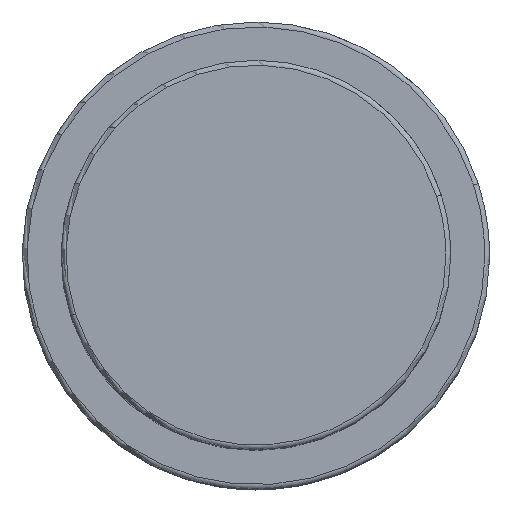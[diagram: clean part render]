
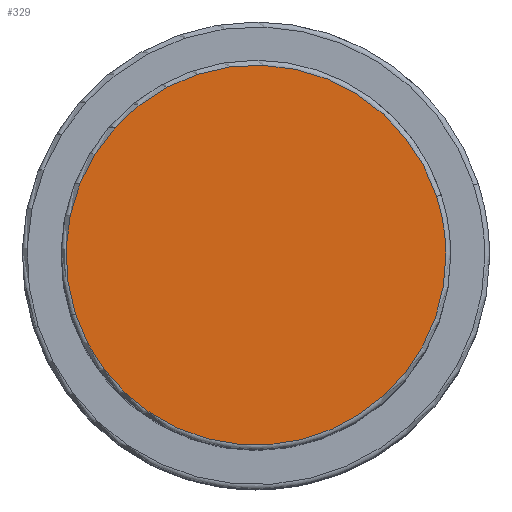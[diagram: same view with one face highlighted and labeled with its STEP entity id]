
A CAD part, top view. The second image highlights one B-rep face of the part: STEP entity #329.
In plain terms, the highlighted planar face has unit normal (0, 0, 1).
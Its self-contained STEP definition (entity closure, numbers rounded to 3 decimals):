
#295=CARTESIAN_POINT('',(19.5,0.0,53.5));
#296=VERTEX_POINT('',#295);
#297=CARTESIAN_POINT('',(18.546,6.026,53.5));
#298=VERTEX_POINT('',#297);
#299=CARTESIAN_POINT('',(0.0,0.0,53.5));
#300=DIRECTION('',(0.0,0.0,1.0));
#301=DIRECTION('',(1.0,0.0,0.0));
#302=AXIS2_PLACEMENT_3D('',#299,#300,#301);
#303=CIRCLE('',#302,19.5);
#304=EDGE_CURVE('no 841',#296,#298,#303,.T.);
#305=ORIENTED_EDGE('',*,*,#304,.T.);
#306=CARTESIAN_POINT('',(-18.546,-6.026,53.5));
#307=VERTEX_POINT('',#306);
#308=CARTESIAN_POINT('',(0.0,0.0,53.5));
#309=DIRECTION('',(0.0,0.0,1.0));
#310=DIRECTION('',(1.0,0.0,0.0));
#311=AXIS2_PLACEMENT_3D('',#308,#309,#310);
#312=CIRCLE('',#311,19.5);
#313=EDGE_CURVE('no 847',#298,#307,#312,.T.);
#314=ORIENTED_EDGE('',*,*,#313,.T.);
#315=CARTESIAN_POINT('',(0.0,0.0,53.5));
#316=DIRECTION('',(0.0,0.0,1.0));
#317=DIRECTION('',(1.0,0.0,0.0));
#318=AXIS2_PLACEMENT_3D('',#315,#316,#317);
#319=CIRCLE('',#318,19.5);
#320=EDGE_CURVE('no 851',#307,#296,#319,.T.);
#321=ORIENTED_EDGE('',*,*,#320,.T.);
#322=EDGE_LOOP('',(#305,#314,#321));
#323=FACE_OUTER_BOUND('',#322,.T.);
#324=CARTESIAN_POINT('',(0.0,0.0,53.5));
#325=DIRECTION('',(0.0,0.0,1.0));
#326=DIRECTION('',(1.0,0.0,0.0));
#327=AXIS2_PLACEMENT_3D('',#324,#325,#326);
#328=PLANE('',#327);
#329=ADVANCED_FACE('no 832',(#323),#328,.T.);
